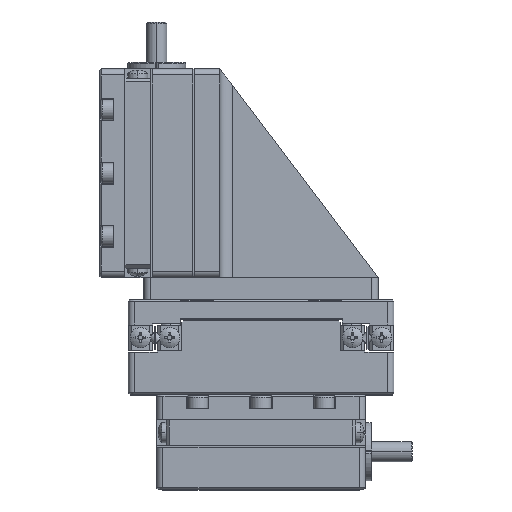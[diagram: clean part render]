
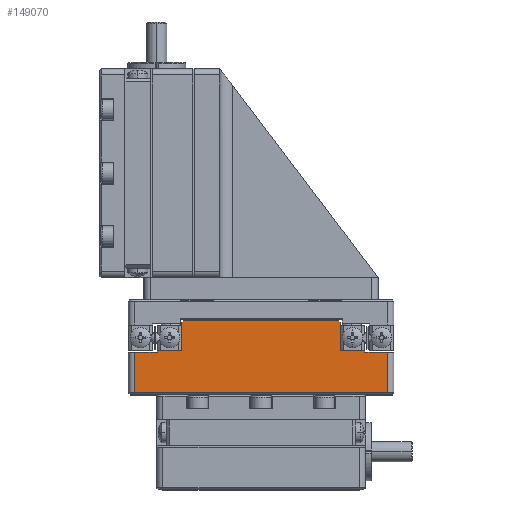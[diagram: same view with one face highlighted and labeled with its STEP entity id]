
A CAD part, top view. The second image highlights one B-rep face of the part: STEP entity #149070.
In plain terms, the highlighted planar face has unit normal (0, 0, 1).
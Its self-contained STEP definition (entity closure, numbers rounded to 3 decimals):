
#10 = ORIENTED_EDGE ( 'NONE', *, *, #149999, .F. ) ;
#1940 = DIRECTION ( 'NONE',  ( 1., 0., 0. ) ) ;
#2168 = ORIENTED_EDGE ( 'NONE', *, *, #20964, .F. ) ;
#3825 = ORIENTED_EDGE ( 'NONE', *, *, #125797, .F. ) ;
#6520 = DIRECTION ( 'NONE',  ( 0., 1., 0. ) ) ;
#8528 = VECTOR ( 'NONE', #73013, 1000. ) ;
#9947 = CARTESIAN_POINT ( 'NONE',  ( -3.5, 26.7, 16.5 ) ) ;
#10190 = VECTOR ( 'NONE', #33760, 1000. ) ;
#12799 = DIRECTION ( 'NONE',  ( 1., 0., 0. ) ) ;
#13326 = CARTESIAN_POINT ( 'NONE',  ( 37.5, 22., 16.5 ) ) ;
#13705 = VECTOR ( 'NONE', #103133, 1000. ) ;
#14378 = EDGE_CURVE ( 'NONE', #32703, #138704, #31055, .T. ) ;
#14887 = CARTESIAN_POINT ( 'NONE',  ( 29., 26.7, 16.5 ) ) ;
#15566 = ORIENTED_EDGE ( 'NONE', *, *, #14378, .F. ) ;
#16728 = CARTESIAN_POINT ( 'NONE',  ( -3.5, 15.3, 16.5 ) ) ;
#16763 = ORIENTED_EDGE ( 'NONE', *, *, #150172, .F. ) ;
#16947 = EDGE_LOOP ( 'NONE', ( #46664, #19711, #126899, #15566, #86177, #56409, #86091, #102193, #2168, #3825, #16763, #27941, #59240, #10 ) ) ;
#17273 = DIRECTION ( 'NONE',  ( 0., 0., -1. ) ) ;
#17334 = DIRECTION ( 'NONE',  ( 0.707, 0.707, 0. ) ) ;
#17546 = VECTOR ( 'NONE', #1940, 1000. ) ;
#17774 = CARTESIAN_POINT ( 'NONE',  ( 37.5, 26.7, 16.5 ) ) ;
#19711 = ORIENTED_EDGE ( 'NONE', *, *, #145466, .F. ) ;
#20964 = EDGE_CURVE ( 'NONE', #67743, #115919, #138893, .T. ) ;
#24178 = CARTESIAN_POINT ( 'NONE',  ( 29., 26.4, 16.5 ) ) ;
#27941 = ORIENTED_EDGE ( 'NONE', *, *, #85457, .F. ) ;
#29229 = CARTESIAN_POINT ( 'NONE',  ( 4.3, 26.7, 16.5 ) ) ;
#30633 = VERTEX_POINT ( 'NONE', #43713 ) ;
#31055 = LINE ( 'NONE', #13326, #53004 ) ;
#32703 = VERTEX_POINT ( 'NONE', #68875 ) ;
#33760 = DIRECTION ( 'NONE',  ( 0., 1., 0. ) ) ;
#36141 = EDGE_CURVE ( 'NONE', #115919, #106405, #136881, .T. ) ;
#37279 = DIRECTION ( 'NONE',  ( 1., 0., 0. ) ) ;
#37766 = FACE_OUTER_BOUND ( 'NONE', #16947, .T. ) ;
#38306 = PLANE ( 'NONE',  #143185 ) ;
#38940 = DIRECTION ( 'NONE',  ( 0., -1., 0. ) ) ;
#40774 = VERTEX_POINT ( 'NONE', #104494 ) ;
#41924 = VERTEX_POINT ( 'NONE', #132428 ) ;
#43458 = CARTESIAN_POINT ( 'NONE',  ( 36.5, 15.3, 16.5 ) ) ;
#43573 = EDGE_CURVE ( 'NONE', #138704, #30633, #110818, .T. ) ;
#43713 = CARTESIAN_POINT ( 'NONE',  ( 4., 26.4, 16.5 ) ) ;
#45311 = CARTESIAN_POINT ( 'NONE',  ( 4., 22., 16.5 ) ) ;
#46664 = ORIENTED_EDGE ( 'NONE', *, *, #121564, .F. ) ;
#47115 = CARTESIAN_POINT ( 'NONE',  ( 0.1, 21.7, 16.5 ) ) ;
#48715 = LINE ( 'NONE', #82736, #17546 ) ;
#50102 = VERTEX_POINT ( 'NONE', #47115 ) ;
#50185 = CARTESIAN_POINT ( 'NONE',  ( 4., 26.4, 16.5 ) ) ;
#53004 = VECTOR ( 'NONE', #12799, 1000. ) ;
#53668 = VECTOR ( 'NONE', #38940, 1000. ) ;
#54625 = VERTEX_POINT ( 'NONE', #139492 ) ;
#55864 = VECTOR ( 'NONE', #81602, 1000. ) ;
#56409 = ORIENTED_EDGE ( 'NONE', *, *, #129366, .F. ) ;
#59240 = ORIENTED_EDGE ( 'NONE', *, *, #119915, .F. ) ;
#60079 = VECTOR ( 'NONE', #37279, 1000. ) ;
#60664 = CARTESIAN_POINT ( 'NONE',  ( 32.9, 26.7, 16.5 ) ) ;
#61097 = LINE ( 'NONE', #14887, #53668 ) ;
#67743 = VERTEX_POINT ( 'NONE', #89123 ) ;
#68875 = CARTESIAN_POINT ( 'NONE',  ( 0.1, 22., 16.5 ) ) ;
#69550 = DIRECTION ( 'NONE',  ( 1., 0., 0. ) ) ;
#71619 = DIRECTION ( 'NONE',  ( -1., 0., 0. ) ) ;
#72833 = LINE ( 'NONE', #134828, #83901 ) ;
#73013 = DIRECTION ( 'NONE',  ( 0., -1., 0. ) ) ;
#74707 = LINE ( 'NONE', #90172, #118985 ) ;
#78427 = VECTOR ( 'NONE', #129743, 1000. ) ;
#81602 = DIRECTION ( 'NONE',  ( 0., -1., 0. ) ) ;
#82736 = CARTESIAN_POINT ( 'NONE',  ( 37.5, 21.7, 16.5 ) ) ;
#83333 = VERTEX_POINT ( 'NONE', #140143 ) ;
#83901 = VECTOR ( 'NONE', #135361, 1000. ) ;
#85457 = EDGE_CURVE ( 'NONE', #141636, #41924, #74707, .T. ) ;
#86091 = ORIENTED_EDGE ( 'NONE', *, *, #112567, .F. ) ;
#86177 = ORIENTED_EDGE ( 'NONE', *, *, #132823, .F. ) ;
#87167 = CARTESIAN_POINT ( 'NONE',  ( 29., 22., 16.5 ) ) ;
#89123 = CARTESIAN_POINT ( 'NONE',  ( 36.5, 21.7, 16.5 ) ) ;
#90172 = CARTESIAN_POINT ( 'NONE',  ( 37.5, 22., 16.5 ) ) ;
#91081 = LINE ( 'NONE', #116782, #10190 ) ;
#91394 = LINE ( 'NONE', #108476, #60079 ) ;
#92684 = LINE ( 'NONE', #9947, #13705 ) ;
#95417 = CARTESIAN_POINT ( 'NONE',  ( 37.5, 15.3, 16.5 ) ) ;
#100153 = DIRECTION ( 'NONE',  ( -1., 0., 0. ) ) ;
#100725 = LINE ( 'NONE', #24178, #78427 ) ;
#102193 = ORIENTED_EDGE ( 'NONE', *, *, #36141, .F. ) ;
#103133 = DIRECTION ( 'NONE',  ( 0., 1., 0. ) ) ;
#104398 = CARTESIAN_POINT ( 'NONE',  ( 36.5, 26.7, 16.5 ) ) ;
#104494 = CARTESIAN_POINT ( 'NONE',  ( 29., 26.4, 16.5 ) ) ;
#106405 = VERTEX_POINT ( 'NONE', #16728 ) ;
#108476 = CARTESIAN_POINT ( 'NONE',  ( 37.5, 21.7, 16.5 ) ) ;
#110393 = VERTEX_POINT ( 'NONE', #29229 ) ;
#110818 = LINE ( 'NONE', #121847, #123622 ) ;
#112567 = EDGE_CURVE ( 'NONE', #106405, #151372, #92684, .T. ) ;
#115919 = VERTEX_POINT ( 'NONE', #43458 ) ;
#116782 = CARTESIAN_POINT ( 'NONE',  ( 0.1, 26.7, 16.5 ) ) ;
#118985 = VECTOR ( 'NONE', #69550, 1000. ) ;
#119061 = LINE ( 'NONE', #60664, #8528 ) ;
#119915 = EDGE_CURVE ( 'NONE', #40774, #141636, #61097, .T. ) ;
#120348 = VECTOR ( 'NONE', #71619, 1000. ) ;
#120770 = VECTOR ( 'NONE', #17334, 1000. ) ;
#121564 = EDGE_CURVE ( 'NONE', #110393, #54625, #72833, .T. ) ;
#121847 = CARTESIAN_POINT ( 'NONE',  ( 4., 26.7, 16.5 ) ) ;
#123622 = VECTOR ( 'NONE', #6520, 1000. ) ;
#125797 = EDGE_CURVE ( 'NONE', #83333, #67743, #91394, .T. ) ;
#126899 = ORIENTED_EDGE ( 'NONE', *, *, #43573, .F. ) ;
#129366 = EDGE_CURVE ( 'NONE', #151372, #50102, #48715, .T. ) ;
#129743 = DIRECTION ( 'NONE',  ( 0.707, -0.707, 0. ) ) ;
#132428 = CARTESIAN_POINT ( 'NONE',  ( 32.9, 22., 16.5 ) ) ;
#132823 = EDGE_CURVE ( 'NONE', #50102, #32703, #91081, .T. ) ;
#134828 = CARTESIAN_POINT ( 'NONE',  ( 37.5, 26.7, 16.5 ) ) ;
#135361 = DIRECTION ( 'NONE',  ( 1., 0., 0. ) ) ;
#136881 = LINE ( 'NONE', #95417, #120348 ) ;
#138704 = VERTEX_POINT ( 'NONE', #45311 ) ;
#138893 = LINE ( 'NONE', #104398, #55864 ) ;
#139492 = CARTESIAN_POINT ( 'NONE',  ( 28.7, 26.7, 16.5 ) ) ;
#140143 = CARTESIAN_POINT ( 'NONE',  ( 32.9, 21.7, 16.5 ) ) ;
#141636 = VERTEX_POINT ( 'NONE', #87167 ) ;
#143185 = AXIS2_PLACEMENT_3D ( 'NONE', #17774, #17273, #100153 ) ;
#143352 = CARTESIAN_POINT ( 'NONE',  ( -3.5, 21.7, 16.5 ) ) ;
#144753 = LINE ( 'NONE', #50185, #120770 ) ;
#145466 = EDGE_CURVE ( 'NONE', #30633, #110393, #144753, .T. ) ;
#149070 = ADVANCED_FACE ( 'NONE', ( #37766 ), #38306, .F. ) ;
#149999 = EDGE_CURVE ( 'NONE', #54625, #40774, #100725, .T. ) ;
#150172 = EDGE_CURVE ( 'NONE', #41924, #83333, #119061, .T. ) ;
#151372 = VERTEX_POINT ( 'NONE', #143352 ) ;
